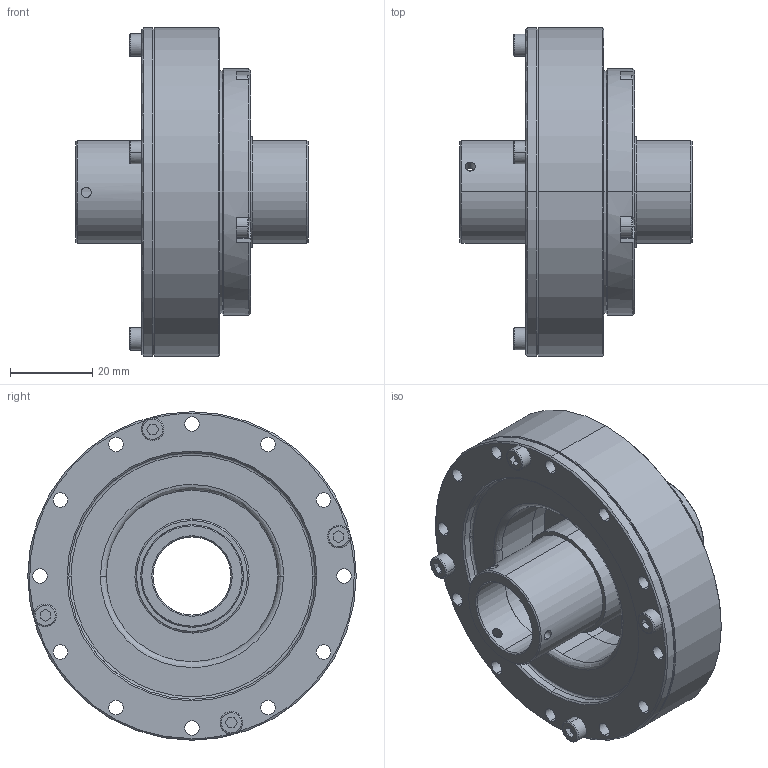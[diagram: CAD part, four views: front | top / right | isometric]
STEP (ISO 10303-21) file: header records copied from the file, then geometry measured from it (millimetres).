
FILE_DESCRIPTION(('STEP AP214'),'1');
FILE_NAME('cctmp_C7E54CD1-9411-42C8-A4E7-4CB2FD2B8D03_2025_03_06_11_20_31_0952_110896..stp','2025-03-06T10:20:32',('HIWIN GmbH'),('CADClick - www.CADClick.com'),'Spatial InterOp 3D',' ','unknown authorization');
FILE_SCHEMA(('AUTOMOTIVE_DESIGN'));
Length unit declared in the file: millimetre
Products named in the file (2): DSH-17-XX-PH_FILE; 2025_03_06_11_20_31_0937
Assembly tree (1 placements, depth 2):
  DSH-17-XX-PH_FILE
    2025_03_06_11_20_31_0937
Bounding box: 56.5 x 80 x 80 mm (x, y, z)
Volume: 90983.4 mm3; surface area: 31032.6 mm2
Topology: 1 solids, 1 shells, 360 faces, 879 edges, 547 vertices
Faces by surface type: cylinder 150, plane 113, cone 71, bspline 26
Entity records: 15156 total; most frequent: CARTESIAN_POINT 3727, DIRECTION 1859, ORIENTED_EDGE 1692, EDGE_CURVE 846, AXIS2_PLACEMENT_3D 735, VERTEX_POINT 547, EDGE_LOOP 451, CIRCLE 399
